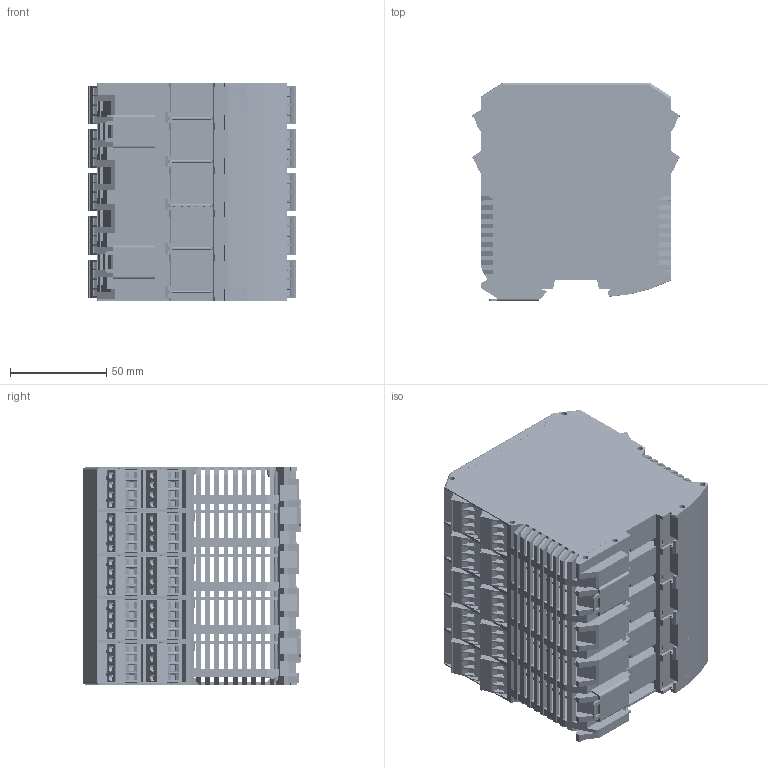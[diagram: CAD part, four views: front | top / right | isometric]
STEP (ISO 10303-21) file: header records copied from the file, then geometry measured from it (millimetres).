
FILE_DESCRIPTION(('SolidDesigner STEP Export'),'2;1');
FILE_NAME('ME_MAX_112.5_2-2_H.Select.stp','2012-12-14T18:31:39',(''),(''),'CoCreate Modeling STEP processor for AP214 (Solid Model)','CoCreate Modeling 16.00A 16-Aug-2008 (C) Parametric Technology GmbH','');
FILE_SCHEMA(('AUTOMOTIVE_DESIGN { 1 0 10303 214 1 1 1 1 }'));
Length unit declared in the file: millimetre
Products named in the file (13): T1; ME_MAX_GEH-L_2-2_H.Select; ME_MAX_45_DKL; ME_MAX_22.5_DKL_H.Select.2; ME_MAX_45_MT_2-2_H.Select.3; ME_MAX_22.5_PLATE.1; ME_MAX_22.5_GEH-R_2-2_H.Select; ME_MAX_B-22.5.1.2; ME_MAX_PCB-MSTBO_2-2.4; mstbo_2.5-4-g1r.1.5; MSTBO_2_5-4-G1L_H.Select__00364411.1.8; MSTBT_2_5-4-ST_IP20_KPL_H.Select; ME_MAX_112.5_2-2_H.Select
Assembly tree (59 placements, depth 2):
  ME_MAX_112.5_2-2_H.Select
    MSTBT_2_5-4-ST_IP20_KPL_H.Select  x17
    MSTBO_2_5-4-G1L_H.Select__00364411.1.8  x10
    mstbo_2.5-4-g1r.1.5  x7
    ME_MAX_PCB-MSTBO_2-2.4  x5
    ME_MAX_B-22.5.1.2  x3
    ME_MAX_22.5_PLATE.1  x5
    T1  x2
    ME_MAX_45_MT_2-2_H.Select.3  x4
    ME_MAX_22.5_GEH-R_2-2_H.Select
    ME_MAX_22.5_DKL_H.Select.2  x3
    ME_MAX_45_DKL
    ME_MAX_GEH-L_2-2_H.Select
Bounding box: 108.03 x 113.6 x 113 mm (x, y, z)
Volume: 303712.9 mm3; surface area: 349890.5 mm2
Topology: 59 solids, 59 shells, 27614 faces, 77240 edges, 50557 vertices
Faces by surface type: plane 24219, cylinder 3169, cone 206, torus 20
Entity records: 204088 total; most frequent: ORIENTED_EDGE 30800, CARTESIAN_POINT 30693, DIRECTION 25310, EDGE_CURVE 15400, VECTOR 13938, LINE 13938, VERTEX_POINT 10126, AXIS2_PLACEMENT_3D 5686
